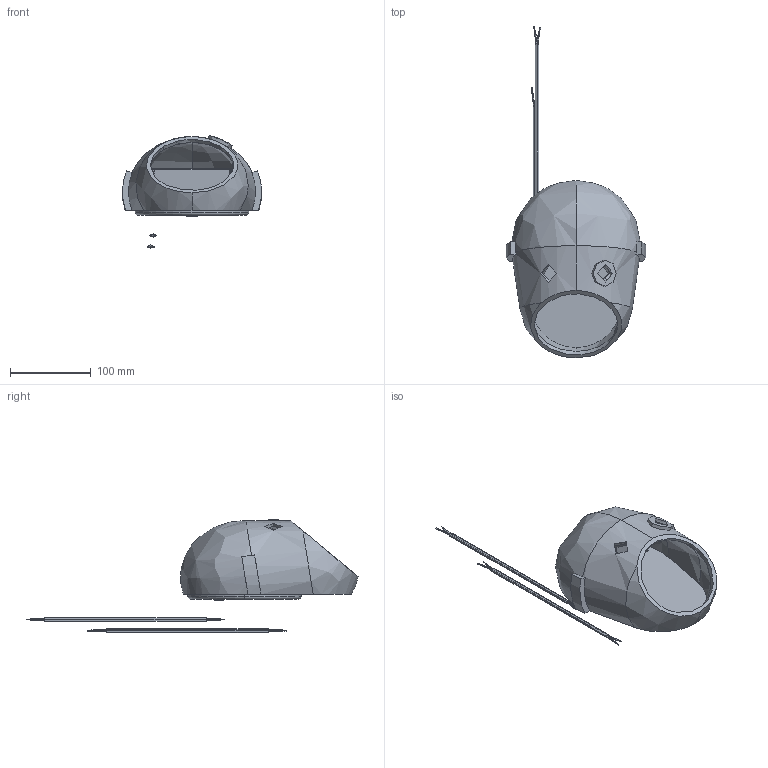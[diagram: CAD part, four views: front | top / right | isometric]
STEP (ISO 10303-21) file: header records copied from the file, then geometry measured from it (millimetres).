
FILE_DESCRIPTION (( 'STEP AP214' ), '1' );
FILE_NAME ('A000926_Creations_Default_THE MAYOR_19-10-2018.step', '2018-10-19T07:17:06', ( '' ), ( '' ), 'SwSTEP 2.0', 'SolidWorks 2017', '' );
FILE_SCHEMA (( 'AUTOMOTIVE_DESIGN' ));
Length unit declared in the file: millimetre
Products named in the file (21): ISO 7380 - M3 x 10 - 10N_ISO 7380 - M3 x 10 - 10N; P002326; DIN 985 - M3 - N; P002654; P000780; P001935; P000480; A000926_Creations_Default_THE MAYOR_19-10-2018; P002659; P002709_120-14-C0450-TL; P002375; P002653; P002521; P002522; A000915; EN ISO 10642 - M3 x 16 - 16N_EN ISO 10642 - M3 x 16 - 16N; DIN EN ISO 7045 - M3 x 8 - Z - 8N_DIN EN ISO 7045 - M3 x 8 - Z - 8N; DIN 6797-A3.2_DIN 6797-A3.2; P002593; P002325; P002221
Assembly tree (34 placements, depth 3):
  A000926_Creations_Default_THE MAYOR_19-10-2018
    P002593
    A000915
      P002326
      P002521
      P002522
      P002653
      P002654
      P002221
      P000480
      P001935  x3
      P002325
      P002709_120-14-C0450-TL
      DIN 985 - M3 - N  x8
      P002659
      P000780
      EN ISO 10642 - M3 x 16 - 16N_EN ISO 10642 - M3 x 16 - 16N  x4
      P002375  x2
      ISO 7380 - M3 x 10 - 10N_ISO 7380 - M3 x 10 - 10N  x2
      DIN 6797-A3.2_DIN 6797-A3.2
      DIN EN ISO 7045 - M3 x 8 - Z - 8N_DIN EN ISO 7045 - M3 x 8 - Z - 8N
Bounding box: 171.97 x 409.92 x 139.75 mm (x, y, z)
Volume: 724510.4 mm3; surface area: 279210.5 mm2
Topology: 43 solids, 43 shells, 1736 faces, 4301 edges, 2711 vertices
Faces by surface type: plane 853, cylinder 423, bspline 215, cone 187, torus 48, sphere 10
Entity records: 55223 total; most frequent: CARTESIAN_POINT 27308, ORIENTED_EDGE 5630, DIRECTION 4911, EDGE_CURVE 2815, VERTEX_POINT 1811, LINE 1691, VECTOR 1691, AXIS2_PLACEMENT_3D 1610
